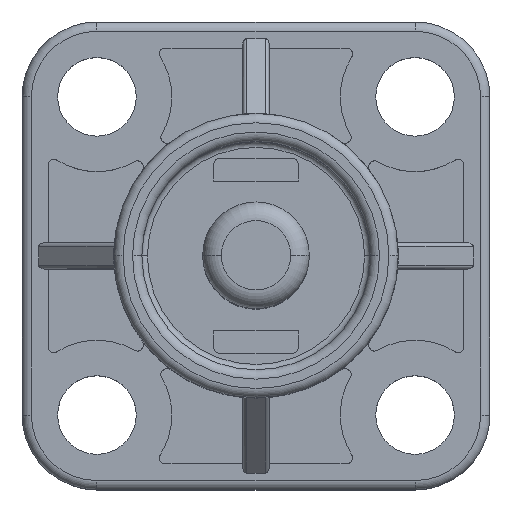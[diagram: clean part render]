
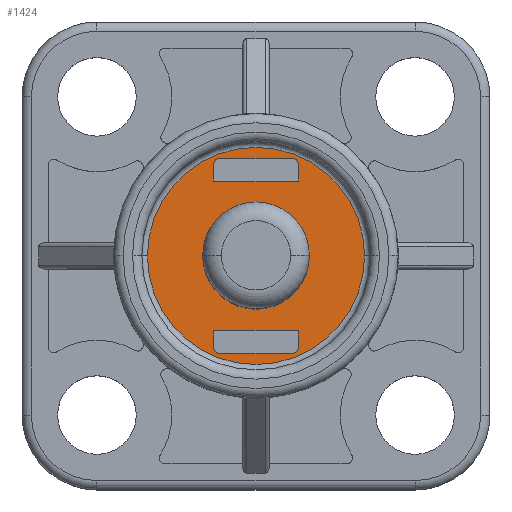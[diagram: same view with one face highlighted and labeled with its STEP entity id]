
A CAD part, top view. The second image highlights one B-rep face of the part: STEP entity #1424.
In plain terms, the highlighted planar face has unit normal (0, 0, 1).
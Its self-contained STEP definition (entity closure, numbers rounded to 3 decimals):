
#117 = CARTESIAN_POINT ( 'NONE',  ( -14.517, -2.37, 3.15 ) ) ;
#124 = DIRECTION ( 'NONE',  ( 0., 0., 1. ) ) ;
#126 = EDGE_CURVE ( 'NONE', #1720, #2918, #449, .T. ) ;
#129 = CARTESIAN_POINT ( 'NONE',  ( -10.317, -1.17, 3.15 ) ) ;
#133 = DIRECTION ( 'NONE',  ( 0., 0., 1. ) ) ;
#136 = CARTESIAN_POINT ( 'NONE',  ( -14.217, -11.57, 3.15 ) ) ;
#155 = AXIS2_PLACEMENT_3D ( 'NONE', #7012, #1017, #5252 ) ;
#158 = FACE_BOUND ( 'NONE', #7741, .T. ) ;
#251 = VECTOR ( 'NONE', #5031, 1000. ) ;
#314 = EDGE_CURVE ( 'NONE', #6506, #5034, #3577, .T. ) ;
#401 = PLANE ( 'NONE',  #155 ) ;
#439 = CARTESIAN_POINT ( 'NONE',  ( -9.417, -6.37, 3.15 ) ) ;
#449 = LINE ( 'NONE', #2617, #251 ) ;
#454 = DIRECTION ( 'NONE',  ( 1., 0., 0. ) ) ;
#505 = LINE ( 'NONE', #7729, #5974 ) ;
#510 = VERTEX_POINT ( 'NONE', #3840 ) ;
#524 = DIRECTION ( 'NONE',  ( -1., 0., 0. ) ) ;
#598 = DIRECTION ( 'NONE',  ( -1., 0., 0. ) ) ;
#625 = EDGE_CURVE ( 'NONE', #2918, #1332, #2445, .T. ) ;
#831 = AXIS2_PLACEMENT_3D ( 'NONE', #1842, #6055, #2452 ) ;
#930 = AXIS2_PLACEMENT_3D ( 'NONE', #7776, #4226, #598 ) ;
#960 = EDGE_CURVE ( 'NONE', #1332, #5848, #2930, .T. ) ;
#964 = VERTEX_POINT ( 'NONE', #4724 ) ;
#1017 = DIRECTION ( 'NONE',  ( 0., 0., 1. ) ) ;
#1039 = AXIS2_PLACEMENT_3D ( 'NONE', #3745, #124, #4368 ) ;
#1142 = ORIENTED_EDGE ( 'NONE', *, *, #314, .F. ) ;
#1206 = ORIENTED_EDGE ( 'NONE', *, *, #7736, .T. ) ;
#1247 = CARTESIAN_POINT ( 'NONE',  ( -14.517, -1.47, 3.15 ) ) ;
#1314 = VERTEX_POINT ( 'NONE', #5011 ) ;
#1332 = VERTEX_POINT ( 'NONE', #136 ) ;
#1424 = ADVANCED_FACE ( 'NONE', ( #3399, #158, #6372, #6570 ), #401, .T. ) ;
#1491 = CIRCLE ( 'NONE', #831, 0.3 ) ;
#1556 = CARTESIAN_POINT ( 'NONE',  ( -12.267, -6.37, 3.15 ) ) ;
#1587 = VECTOR ( 'NONE', #3825, 1000. ) ;
#1673 = EDGE_CURVE ( 'NONE', #5848, #6506, #1491, .T. ) ;
#1708 = VECTOR ( 'NONE', #6752, 1000. ) ;
#1720 = VERTEX_POINT ( 'NONE', #6680 ) ;
#1801 = VERTEX_POINT ( 'NONE', #129 ) ;
#1842 = CARTESIAN_POINT ( 'NONE',  ( -10.317, -11.27, 3.15 ) ) ;
#1943 = CARTESIAN_POINT ( 'NONE',  ( -10.017, -1.47, 3.15 ) ) ;
#2019 = VERTEX_POINT ( 'NONE', #2964 ) ;
#2024 = EDGE_CURVE ( 'NONE', #5597, #1801, #5906, .T. ) ;
#2084 = ORIENTED_EDGE ( 'NONE', *, *, #5698, .F. ) ;
#2139 = DIRECTION ( 'NONE',  ( 1., 0., 0. ) ) ;
#2208 = CARTESIAN_POINT ( 'NONE',  ( -14.217, -1.47, 3.15 ) ) ;
#2326 = DIRECTION ( 'NONE',  ( 0., 0., 1. ) ) ;
#2445 = CIRCLE ( 'NONE', #6798, 0.3 ) ;
#2446 = EDGE_CURVE ( 'NONE', #6236, #964, #5231, .T. ) ;
#2451 = VECTOR ( 'NONE', #5341, 1000. ) ;
#2452 = DIRECTION ( 'NONE',  ( -1., 0., 0. ) ) ;
#2617 = CARTESIAN_POINT ( 'NONE',  ( -14.517, -11.27, 3.15 ) ) ;
#2677 = EDGE_CURVE ( 'NONE', #510, #4210, #2958, .T. ) ;
#2690 = AXIS2_PLACEMENT_3D ( 'NONE', #3752, #133, #4380 ) ;
#2696 = ORIENTED_EDGE ( 'NONE', *, *, #1673, .F. ) ;
#2809 = ORIENTED_EDGE ( 'NONE', *, *, #7472, .F. ) ;
#2823 = DIRECTION ( 'NONE',  ( 1., 0., 0. ) ) ;
#2905 = CARTESIAN_POINT ( 'NONE',  ( -14.217, -11.57, 3.15 ) ) ;
#2917 = CARTESIAN_POINT ( 'NONE',  ( -12.267, -6.37, 3.15 ) ) ;
#2918 = VERTEX_POINT ( 'NONE', #6339 ) ;
#2930 = LINE ( 'NONE', #2905, #5924 ) ;
#2958 = CIRCLE ( 'NONE', #4646, 0.3 ) ;
#2964 = CARTESIAN_POINT ( 'NONE',  ( -18.067, -6.37, 3.15 ) ) ;
#3064 = DIRECTION ( 'NONE',  ( 0., -1., 0. ) ) ;
#3068 = CARTESIAN_POINT ( 'NONE',  ( -10.017, -11.27, 3.15 ) ) ;
#3203 = DIRECTION ( 'NONE',  ( -1., 0., 0. ) ) ;
#3234 = EDGE_CURVE ( 'NONE', #1720, #5034, #4464, .T. ) ;
#3300 = CARTESIAN_POINT ( 'NONE',  ( -10.317, -11.57, 3.15 ) ) ;
#3321 = EDGE_LOOP ( 'NONE', ( #7289, #7378 ) ) ;
#3399 = FACE_BOUND ( 'NONE', #4749, .T. ) ;
#3505 = ORIENTED_EDGE ( 'NONE', *, *, #3234, .T. ) ;
#3536 = DIRECTION ( 'NONE',  ( 1., 0., 0. ) ) ;
#3577 = LINE ( 'NONE', #5171, #1587 ) ;
#3604 = ORIENTED_EDGE ( 'NONE', *, *, #6930, .F. ) ;
#3656 = CARTESIAN_POINT ( 'NONE',  ( -14.517, -1.47, 3.15 ) ) ;
#3745 = CARTESIAN_POINT ( 'NONE',  ( -12.267, -6.37, 3.15 ) ) ;
#3752 = CARTESIAN_POINT ( 'NONE',  ( -12.267, -6.37, 3.15 ) ) ;
#3764 = VECTOR ( 'NONE', #3064, 1000. ) ;
#3825 = DIRECTION ( 'NONE',  ( 0., 1., 0. ) ) ;
#3840 = CARTESIAN_POINT ( 'NONE',  ( -14.217, -1.17, 3.15 ) ) ;
#3952 = LINE ( 'NONE', #3656, #3764 ) ;
#4156 = ORIENTED_EDGE ( 'NONE', *, *, #4295, .T. ) ;
#4207 = VECTOR ( 'NONE', #3203, 1000. ) ;
#4210 = VERTEX_POINT ( 'NONE', #1247 ) ;
#4226 = DIRECTION ( 'NONE',  ( 0., 0., 1. ) ) ;
#4273 = CARTESIAN_POINT ( 'NONE',  ( -10.017, -1.47, 3.15 ) ) ;
#4295 = EDGE_CURVE ( 'NONE', #2019, #5381, #7236, .T. ) ;
#4368 = DIRECTION ( 'NONE',  ( 1., 0., 0. ) ) ;
#4380 = DIRECTION ( 'NONE',  ( 1., 0., 0. ) ) ;
#4464 = LINE ( 'NONE', #5914, #2451 ) ;
#4517 = CARTESIAN_POINT ( 'NONE',  ( -10.017, -10.37, 3.15 ) ) ;
#4646 = AXIS2_PLACEMENT_3D ( 'NONE', #2208, #6406, #2823 ) ;
#4724 = CARTESIAN_POINT ( 'NONE',  ( -15.117, -6.37, 3.15 ) ) ;
#4749 = EDGE_LOOP ( 'NONE', ( #7346, #3505, #1142, #2696, #5325, #7622 ) ) ;
#5011 = CARTESIAN_POINT ( 'NONE',  ( -10.017, -2.37, 3.15 ) ) ;
#5031 = DIRECTION ( 'NONE',  ( 0., -1., 0. ) ) ;
#5034 = VERTEX_POINT ( 'NONE', #4517 ) ;
#5171 = CARTESIAN_POINT ( 'NONE',  ( -10.017, -11.27, 3.15 ) ) ;
#5181 = ORIENTED_EDGE ( 'NONE', *, *, #2024, .F. ) ;
#5231 = CIRCLE ( 'NONE', #1039, 2.85 ) ;
#5252 = DIRECTION ( 'NONE',  ( 1., 0., 0. ) ) ;
#5292 = ORIENTED_EDGE ( 'NONE', *, *, #2677, .F. ) ;
#5325 = ORIENTED_EDGE ( 'NONE', *, *, #960, .F. ) ;
#5333 = EDGE_LOOP ( 'NONE', ( #1206, #4156 ) ) ;
#5341 = DIRECTION ( 'NONE',  ( 1., 0., 0. ) ) ;
#5381 = VERTEX_POINT ( 'NONE', #7195 ) ;
#5430 = CIRCLE ( 'NONE', #6338, 2.85 ) ;
#5506 = CIRCLE ( 'NONE', #2690, 5.8 ) ;
#5597 = VERTEX_POINT ( 'NONE', #4273 ) ;
#5681 = VERTEX_POINT ( 'NONE', #117 ) ;
#5698 = EDGE_CURVE ( 'NONE', #1314, #5597, #6298, .T. ) ;
#5763 = DIRECTION ( 'NONE',  ( 0., 0., 1. ) ) ;
#5784 = LINE ( 'NONE', #6181, #4207 ) ;
#5848 = VERTEX_POINT ( 'NONE', #3300 ) ;
#5906 = CIRCLE ( 'NONE', #930, 0.3 ) ;
#5914 = CARTESIAN_POINT ( 'NONE',  ( -14.828, -10.37, 3.15 ) ) ;
#5923 = CARTESIAN_POINT ( 'NONE',  ( -14.217, -11.27, 3.15 ) ) ;
#5924 = VECTOR ( 'NONE', #454, 1000. ) ;
#5974 = VECTOR ( 'NONE', #524, 1000. ) ;
#6055 = DIRECTION ( 'NONE',  ( 0., 0., 1. ) ) ;
#6096 = ORIENTED_EDGE ( 'NONE', *, *, #7760, .T. ) ;
#6181 = CARTESIAN_POINT ( 'NONE',  ( -9.705, -2.37, 3.15 ) ) ;
#6236 = VERTEX_POINT ( 'NONE', #439 ) ;
#6298 = LINE ( 'NONE', #1943, #1708 ) ;
#6338 = AXIS2_PLACEMENT_3D ( 'NONE', #1556, #5763, #2139 ) ;
#6339 = CARTESIAN_POINT ( 'NONE',  ( -14.517, -11.27, 3.15 ) ) ;
#6372 = FACE_OUTER_BOUND ( 'NONE', #5333, .T. ) ;
#6406 = DIRECTION ( 'NONE',  ( 0., 0., 1. ) ) ;
#6506 = VERTEX_POINT ( 'NONE', #3068 ) ;
#6538 = DIRECTION ( 'NONE',  ( 1., 0., 0. ) ) ;
#6570 = FACE_BOUND ( 'NONE', #3321, .T. ) ;
#6680 = CARTESIAN_POINT ( 'NONE',  ( -14.517, -10.37, 3.15 ) ) ;
#6752 = DIRECTION ( 'NONE',  ( 0., 1., 0. ) ) ;
#6798 = AXIS2_PLACEMENT_3D ( 'NONE', #5923, #2326, #6538 ) ;
#6930 = EDGE_CURVE ( 'NONE', #4210, #5681, #3952, .T. ) ;
#7012 = CARTESIAN_POINT ( 'NONE',  ( -3.767, -14.87, 3.15 ) ) ;
#7121 = DIRECTION ( 'NONE',  ( 0., 0., 1. ) ) ;
#7195 = CARTESIAN_POINT ( 'NONE',  ( -6.467, -6.37, 3.15 ) ) ;
#7208 = AXIS2_PLACEMENT_3D ( 'NONE', #2917, #7121, #3536 ) ;
#7236 = CIRCLE ( 'NONE', #7208, 5.8 ) ;
#7249 = EDGE_CURVE ( 'NONE', #964, #6236, #5430, .T. ) ;
#7289 = ORIENTED_EDGE ( 'NONE', *, *, #7249, .F. ) ;
#7346 = ORIENTED_EDGE ( 'NONE', *, *, #126, .F. ) ;
#7378 = ORIENTED_EDGE ( 'NONE', *, *, #2446, .F. ) ;
#7472 = EDGE_CURVE ( 'NONE', #1801, #510, #505, .T. ) ;
#7622 = ORIENTED_EDGE ( 'NONE', *, *, #625, .F. ) ;
#7729 = CARTESIAN_POINT ( 'NONE',  ( -14.217, -1.17, 3.15 ) ) ;
#7736 = EDGE_CURVE ( 'NONE', #5381, #2019, #5506, .T. ) ;
#7741 = EDGE_LOOP ( 'NONE', ( #2084, #6096, #3604, #5292, #2809, #5181 ) ) ;
#7760 = EDGE_CURVE ( 'NONE', #1314, #5681, #5784, .T. ) ;
#7776 = CARTESIAN_POINT ( 'NONE',  ( -10.317, -1.47, 3.15 ) ) ;
